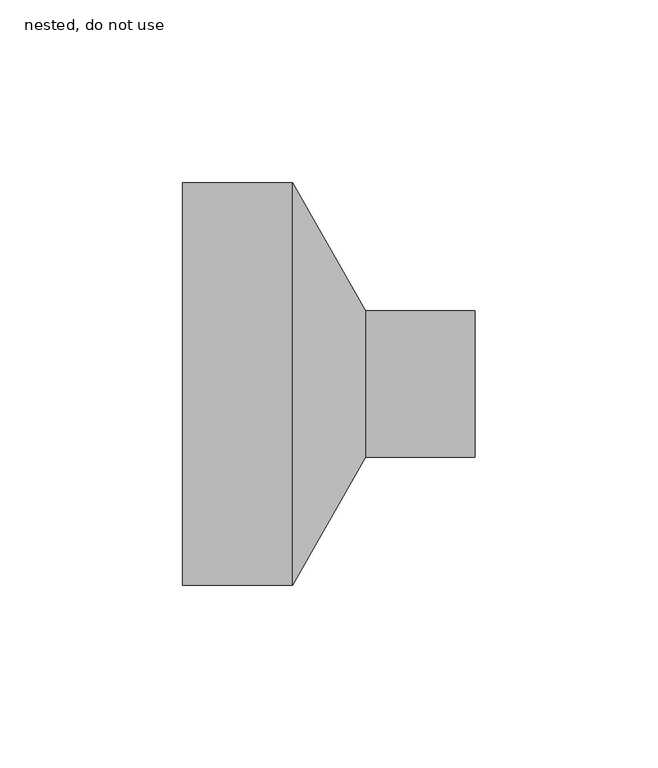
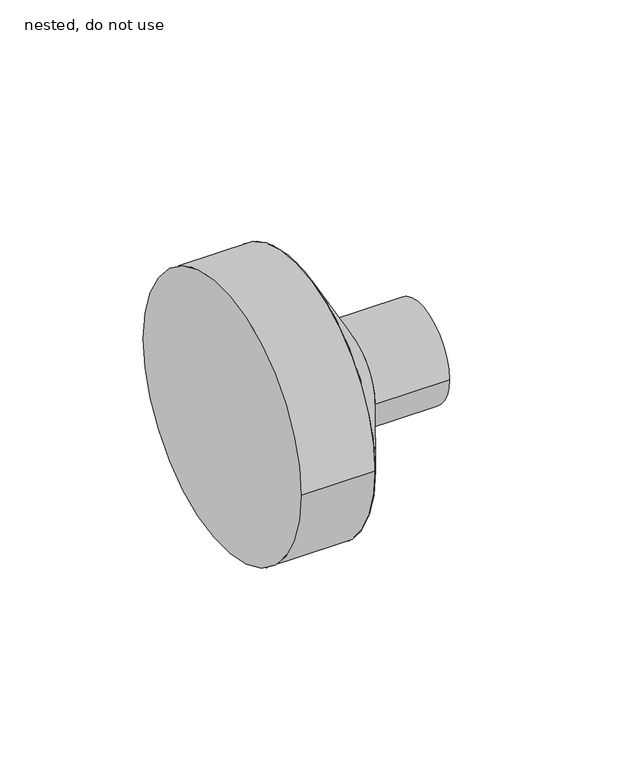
"""IFC4 building model written with IfcOpenShell, lengths in millimetres: pipe fitting geometry, NLRS_52_PIF_UN_HDPE reducer -SH_Akatherm : nested, do not use."""

from ifc_helpers import new_model, si_unit, point, frame, origin, origin_2d, place, context, project, spatial, polyline, circle_curve, trimmed, segment, composite_curve, outline, extrude, source, transform, mapped, element, save
from ifc_brep_helpers import plane_surface, revolved_surface, advanced_brep


def nested_do_not_use_7bd735e8(model_context):
    return source(origin(), model_context, "Body", "SolidModel", [
        advanced_brep(
        [(10.0, -20.0, 0.0), (10.0, 20.0, 0.0), (-10.0, -55.0, 0.0), (-10.0, 55.0, 0.0)],
        [
            (0, 1, circle_curve(frame((10.0, 0.0, 0.0), z_axis=(1.0, -3.5548497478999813e-12, 0.0), x_axis=(-3.5548515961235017e-12, -1.0, 0.0)), 20.0)),
            (1, 0, circle_curve(frame((10.0, 0.0, 0.0), z_axis=(1.0, -3.5548497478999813e-12, 0.0), x_axis=(3.5548515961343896e-12, 1.0, 0.0)), 20.0)),
            (2, 3, circle_curve(frame((-10.0, 0.0, 0.0), z_axis=(-1.0, 3.5548497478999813e-12, 0.0), x_axis=(3.5548515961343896e-12, 1.0, 0.0)), 55.0)),
            (3, 2, circle_curve(frame((-10.0, 0.0, 0.0), z_axis=(-1.0, 3.5548497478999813e-12, 0.0), x_axis=(-3.5548515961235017e-12, -1.0, 0.0)), 55.0)),
            (3, 1),
            (0, 2),
        ],
        [
            plane_surface(frame((10.0, 0.0, 0.0), z_axis=(1.0, 0.0, 0.0), x_axis=(0.0, 0.0, -1.0))),
            plane_surface(frame((-10.0, 0.0, 0.0), z_axis=(-1.0, 0.0, 0.0), x_axis=(0.0, 0.0, -1.0))),
            revolved_surface(polyline([(10.0, -19.999999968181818, 0.0), (-10.000000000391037, -55.00000000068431, 0.0)]), (21.4285714, 0.0, 0.0), (-1.0, 3.5548497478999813e-12, 0.0)),
            revolved_surface(polyline([(10.000000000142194, 19.99999996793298, 0.0), (-10.0, 55.0, 0.0)]), (21.4285714, 0.0, 0.0), (-1.0, 3.5548497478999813e-12, 0.0)),
        ],
        [
            (0, [[1, 2]]),
            (1, [[3, 4]]),
            (2, [[-4, 5, -1, 6]]),
            (3, [[-3, -6, -2, -5]]),
        ],
    ),
        extrude(outline(composite_curve([segment(trimmed(circle_curve(origin_2d(), 20.0), [point((-20.0, 0.0))], [point((20.0, 0.0))], False, "CARTESIAN"), True, "CONTINUOUS"), segment(trimmed(circle_curve(origin_2d(), 20.0), [point((20.0, 0.0))], [point((-20.0, 0.0))], False, "CARTESIAN"), True, "CONTINUOUS")], self_intersect=False)), frame((10.0, 0.0, 0.0), z_axis=(1.0, 0.0, 0.0), x_axis=(0.0, 1.0, 0.0)), (0.0, 0.0, 1.0), 30.0),
        extrude(outline(composite_curve([segment(trimmed(circle_curve(origin_2d(), 55.0), [point((-55.0, 0.0))], [point((55.0, 0.0))], False, "CARTESIAN"), True, "CONTINUOUS"), segment(trimmed(circle_curve(origin_2d(), 55.0), [point((55.0, 0.0))], [point((-55.0, 0.0))], False, "CARTESIAN"), True, "CONTINUOUS")], self_intersect=False)), frame((-40.0, 0.0, 0.0), z_axis=(1.0, 0.0, 0.0), x_axis=(0.0, 1.0, 0.0)), (0.0, 0.0, 1.0), 30.0),
    ])


if __name__ == "__main__":
    model = new_model("IFC4")
    model_context = context("Model", 3, world=origin())
    ifc_project = project(units=[si_unit("LENGTHUNIT", "METRE", prefix="MILLI")], contexts=[model_context])
    site = spatial("IfcSite", under=ifc_project)
    building = spatial("IfcBuilding", under=site)
    placement = place(None, origin())
    nested_do_not_use_shape = nested_do_not_use_7bd735e8(model_context)
    element("IfcPipeFitting", 1, ObjectType="NLRS_52_PIF_UN_HDPE reducer -SH_Akatherm : nested, do not use", at=placement, inside=building, context=model_context, shape_type="MappedRepresentation", body=[
        mapped(nested_do_not_use_shape, transform((0.0, 0.0, 0.0), x_axis=(1.0, 0.0, 0.0), y_axis=(0.0, 1.0, 0.0), z_axis=(0.0, 0.0, 1.0))),
    ])
    save(model, "model.ifc")
